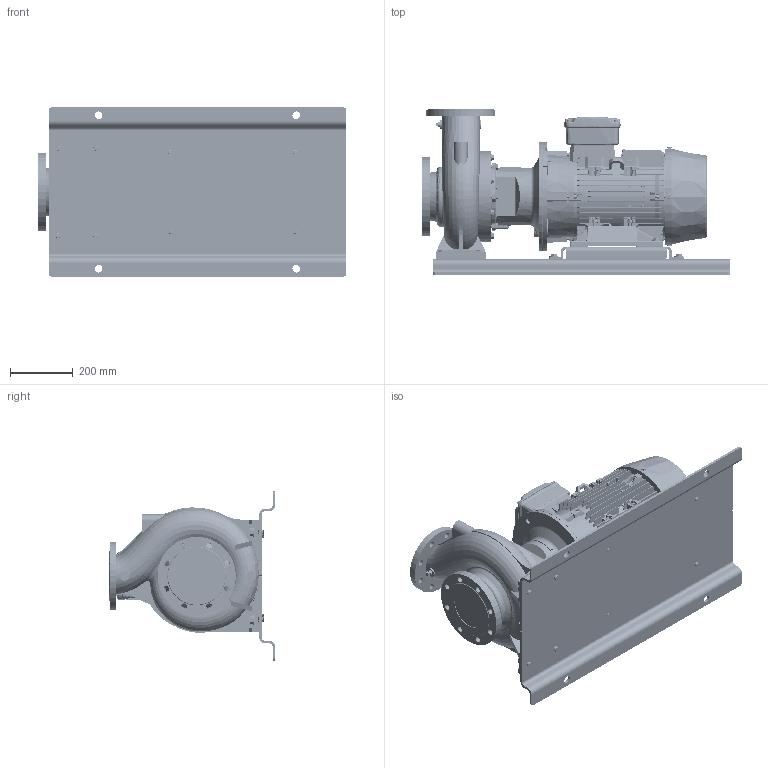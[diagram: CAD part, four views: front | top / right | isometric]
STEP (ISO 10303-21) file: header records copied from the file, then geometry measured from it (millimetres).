
FILE_DESCRIPTION (( 'STEP AP214' ), '1' );
FILE_NAME ('GSD4 100-200_11.0_(160ML)_W21_BP.STEP', '2026-05-08T06:17:25', ( '' ), ( '' ), 'SwSTEP 2.0', 'SolidWorks 2024', '' );
FILE_SCHEMA (( 'AUTOMOTIVE_DESIGN' ));
Length unit declared in the file: millimetre
Products named in the file (13): CGS11-5252; Parametric bolt_SFT-A353B; N6S2 GSDA-621 F1-1832934-00; Parametric bolt and washer_SFT-A353B; Parametric Flat Washer_M12; Parametric bolt and washer_SFT-A297B; 160M_L_ALIE3_W21T_B35; Parametric bolt_SFT-A303B; GSD4 100-200_11.0_(160ML)_W21_BP; Parametric bolt and washer_SFT-A303B; 100-200-160M_L_ﾃﾞﾌｫﾙﾄ; Parametric Flat Washer_M16; Parametric bolt_SFT-A297B
Assembly tree (22 placements, depth 3):
  GSD4 100-200_11.0_(160ML)_W21_BP
    100-200-160M_L_ﾃﾞﾌｫﾙﾄ
    N6S2 GSDA-621 F1-1832934-00
    CGS11-5252
    Parametric bolt and washer_SFT-A353B  x4
      Parametric bolt_SFT-A353B
      Parametric Flat Washer_M16
    Parametric bolt and washer_SFT-A297B  x4
      Parametric bolt_SFT-A297B
      Parametric Flat Washer_M12
    Parametric bolt and washer_SFT-A303B  x4
      Parametric bolt_SFT-A303B
      Parametric Flat Washer_M12
    160M_L_ALIE3_W21T_B35
Bounding box: 985 x 530 x 540 mm (x, y, z)
Volume: 60682553 mm3; surface area: 4545011.9 mm2
Topology: 58 solids, 64 shells, 6426 faces, 16617 edges, 10746 vertices
Faces by surface type: plane 3793, cylinder 1322, cone 587, bspline 487, torus 221, sphere 16
Entity records: 254819 total; most frequent: CARTESIAN_POINT 117194, ORIENTED_EDGE 30210, DIRECTION 25428, EDGE_CURVE 15105, VERTEX_POINT 9777, VECTOR 9588, LINE 9588, AXIS2_PLACEMENT_3D 7920
